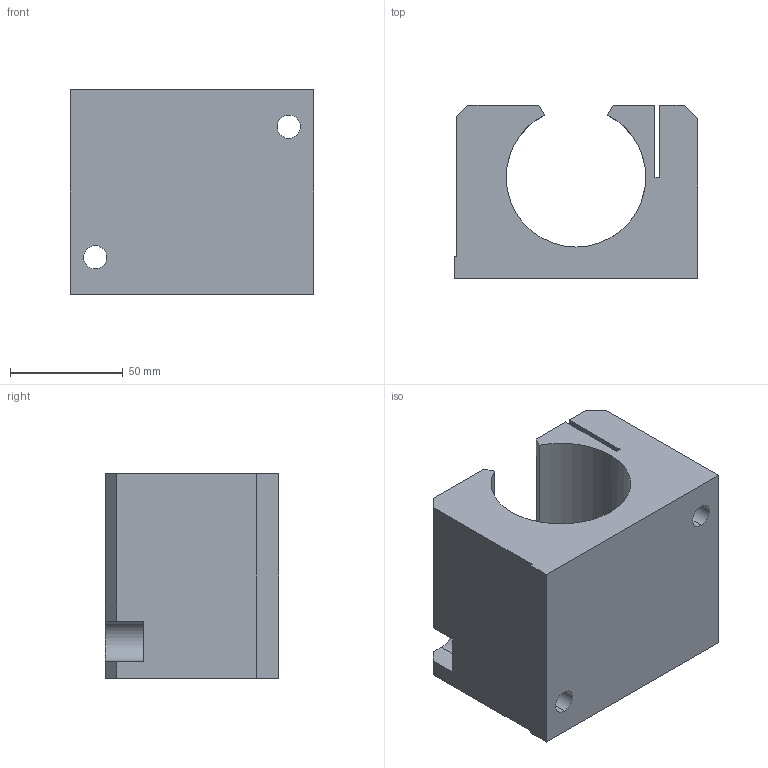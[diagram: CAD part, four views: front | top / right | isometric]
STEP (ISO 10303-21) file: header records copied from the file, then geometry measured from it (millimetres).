
FILE_DESCRIPTION (( 'STEP AP214' ), '1' );
FILE_NAME ('KGOE38-40.step', '2020-03-04T13:23:01', ( '' ), ( '' ), 'SwSTEP 2.0', 'SolidWorks 2019', '' );
FILE_SCHEMA (( 'AUTOMOTIVE_DESIGN' ));
Length unit declared in the file: millimetre
Products named in the file (1): KGOE38-40
Bounding box: 108 x 77 x 91 mm (x, y, z)
Volume: 438672.2 mm3; surface area: 67437.6 mm2
Topology: 1 solids, 1 shells, 52 faces, 149 edges, 98 vertices
Faces by surface type: plane 29, cylinder 21, cone 2
Entity records: 1973 total; most frequent: CARTESIAN_POINT 416, ORIENTED_EDGE 298, DIRECTION 289, EDGE_CURVE 149, LINE 103, VECTOR 103, VERTEX_POINT 98, AXIS2_PLACEMENT_3D 93
